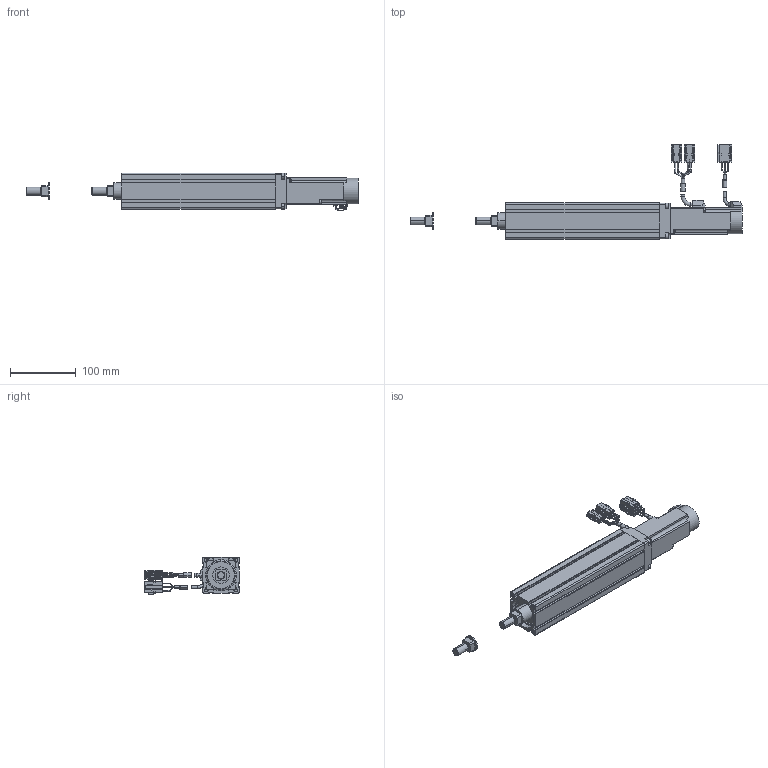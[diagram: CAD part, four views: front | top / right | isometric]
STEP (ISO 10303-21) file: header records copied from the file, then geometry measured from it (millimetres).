
FILE_DESCRIPTION((''),'2;1');
FILE_NAME('BET5E-ST-C_B-10_IGS_PRT','2017-06-18T',(' '),(''),'PRO/ENGINEER BY PARAMETRIC TECHNOLOGY CORPORATION, 2015030','PRO/ENGINEER BY PARAMETRIC TECHNOLOGY CORPORATION, 2015030','');
FILE_SCHEMA(('CONFIG_CONTROL_DESIGN'));
Length unit declared in the file: millimetre
Products named in the file (1): BET5E-ST-C_B-10_IGS_PRT
Bounding box: 504.1 x 142.99 x 57.56 mm (x, y, z)
Volume: 667578.3 mm3; surface area: 186188 mm2
Topology: 8 solids, 34 shells, 986 faces, 2605 edges, 1691 vertices
Faces by surface type: plane 649, cylinder 251, torus 62, cone 20, sphere 4
Entity records: 30632 total; most frequent: CARTESIAN_POINT 5607, DIRECTION 5197, ORIENTED_EDGE 5130, EDGE_CURVE 2593, VECTOR 1879, LINE 1879, VERTEX_POINT 1691, AXIS2_PLACEMENT_3D 1659
